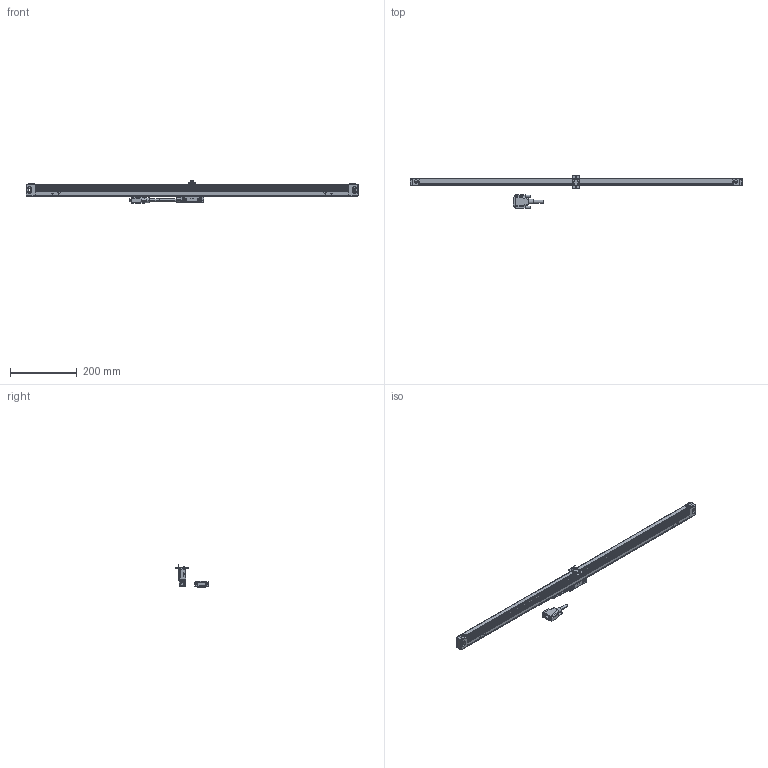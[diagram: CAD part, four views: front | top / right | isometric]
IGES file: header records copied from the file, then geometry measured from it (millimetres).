
Start section: Elysium IGES Interface
Global section: file name: 88H\\Utsu119s\kiyo_cad\data\3D\AT715\HP掲載用_201710\ﾓﾃﾞﾙ修正後_IGES\AT715-800_営業送付.igs; native system: Creo Elements/Direct Modeling 18.1B  29-Sep-2012; preprocessor: Creo Element/Direct IGES_3D V2.2; author: Unknown; organization: Unknown; date: 20181220.144504; units: millimetre
Bounding box: 998 x 99 x 68.35 mm (x, y, z)
Volume: 2161931.9 mm3; surface area: 459033.8 mm2
Topology: 5 solids, 10 shells, 1395 faces, 3676 edges, 2333 vertices
Faces by surface type: bspline 1395
